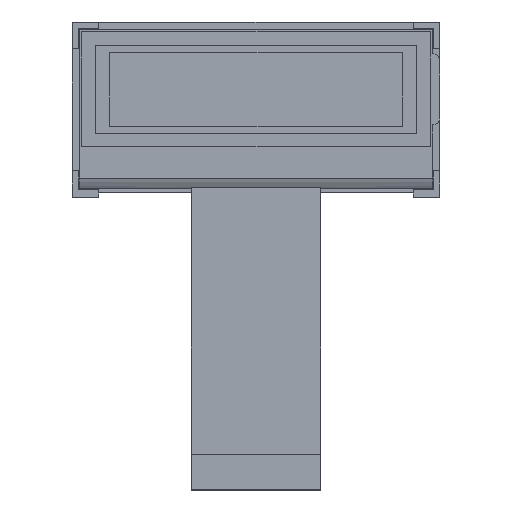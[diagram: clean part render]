
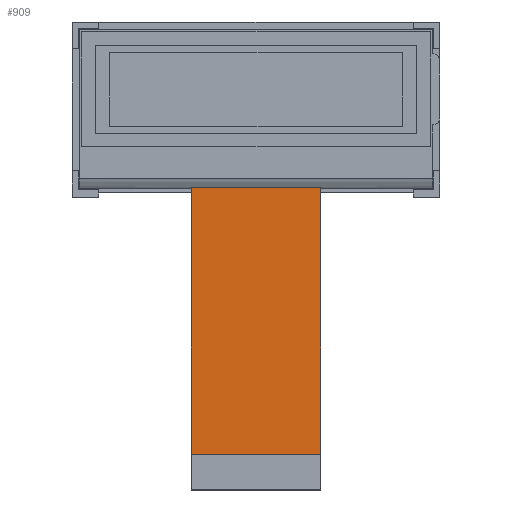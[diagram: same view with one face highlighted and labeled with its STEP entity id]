
A CAD part, top view. The second image highlights one B-rep face of the part: STEP entity #909.
In plain terms, the highlighted planar face has unit normal (0, 0, 1).
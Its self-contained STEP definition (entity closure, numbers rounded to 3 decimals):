
#20 = ORIENTED_EDGE ( 'NONE', *, *, #938, .T. ) ;
#109 = CARTESIAN_POINT ( 'NONE',  ( 13.4, 1.12, -0.65 ) ) ;
#336 = VECTOR ( 'NONE', #498, 1000. ) ;
#351 = VERTEX_POINT ( 'NONE', #2210 ) ;
#368 = CARTESIAN_POINT ( 'NONE',  ( 13.4, -28.87, -0.65 ) ) ;
#437 = EDGE_LOOP ( 'NONE', ( #1974, #1287, #2660, #20 ) ) ;
#485 = DIRECTION ( 'NONE',  ( 0., 1., 0. ) ) ;
#498 = DIRECTION ( 'NONE',  ( 0., -1., 0. ) ) ;
#566 = VECTOR ( 'NONE', #1251, 1000. ) ;
#752 = VECTOR ( 'NONE', #2107, 1000. ) ;
#780 = CARTESIAN_POINT ( 'NONE',  ( 13.4, -28.87, -0.65 ) ) ;
#909 = ADVANCED_FACE ( 'NONE', ( #1004 ), #1879, .T. ) ;
#938 = EDGE_CURVE ( 'NONE', #1939, #351, #2349, .T. ) ;
#1004 = FACE_OUTER_BOUND ( 'NONE', #437, .T. ) ;
#1109 = CARTESIAN_POINT ( 'NONE',  ( 27.9, -32.87, -0.65 ) ) ;
#1124 = LINE ( 'NONE', #1109, #1263 ) ;
#1139 = LINE ( 'NONE', #2483, #336 ) ;
#1217 = CARTESIAN_POINT ( 'NONE',  ( 0.8, 1.12, -0.65 ) ) ;
#1220 = CARTESIAN_POINT ( 'NONE',  ( 27.9, 1.12, -0.65 ) ) ;
#1251 = DIRECTION ( 'NONE',  ( 1., 0., 0. ) ) ;
#1263 = VECTOR ( 'NONE', #485, 1000. ) ;
#1287 = ORIENTED_EDGE ( 'NONE', *, *, #1735, .F. ) ;
#1442 = CARTESIAN_POINT ( 'NONE',  ( 13.4, -32.87, -0.65 ) ) ;
#1575 = AXIS2_PLACEMENT_3D ( 'NONE', #1442, #1682, #2098 ) ;
#1682 = DIRECTION ( 'NONE',  ( 0., 0., 1. ) ) ;
#1689 = EDGE_CURVE ( 'NONE', #2378, #1939, #1139, .T. ) ;
#1735 = EDGE_CURVE ( 'NONE', #2378, #2291, #2313, .T. ) ;
#1879 = PLANE ( 'NONE',  #1575 ) ;
#1939 = VERTEX_POINT ( 'NONE', #780 ) ;
#1974 = ORIENTED_EDGE ( 'NONE', *, *, #2593, .T. ) ;
#2098 = DIRECTION ( 'NONE',  ( 0., -1., 0. ) ) ;
#2107 = DIRECTION ( 'NONE',  ( 1., 0., 0. ) ) ;
#2210 = CARTESIAN_POINT ( 'NONE',  ( 27.9, -28.87, -0.65 ) ) ;
#2291 = VERTEX_POINT ( 'NONE', #1220 ) ;
#2313 = LINE ( 'NONE', #1217, #752 ) ;
#2349 = LINE ( 'NONE', #368, #566 ) ;
#2378 = VERTEX_POINT ( 'NONE', #109 ) ;
#2483 = CARTESIAN_POINT ( 'NONE',  ( 13.4, -32.87, -0.65 ) ) ;
#2593 = EDGE_CURVE ( 'NONE', #351, #2291, #1124, .T. ) ;
#2660 = ORIENTED_EDGE ( 'NONE', *, *, #1689, .T. ) ;
